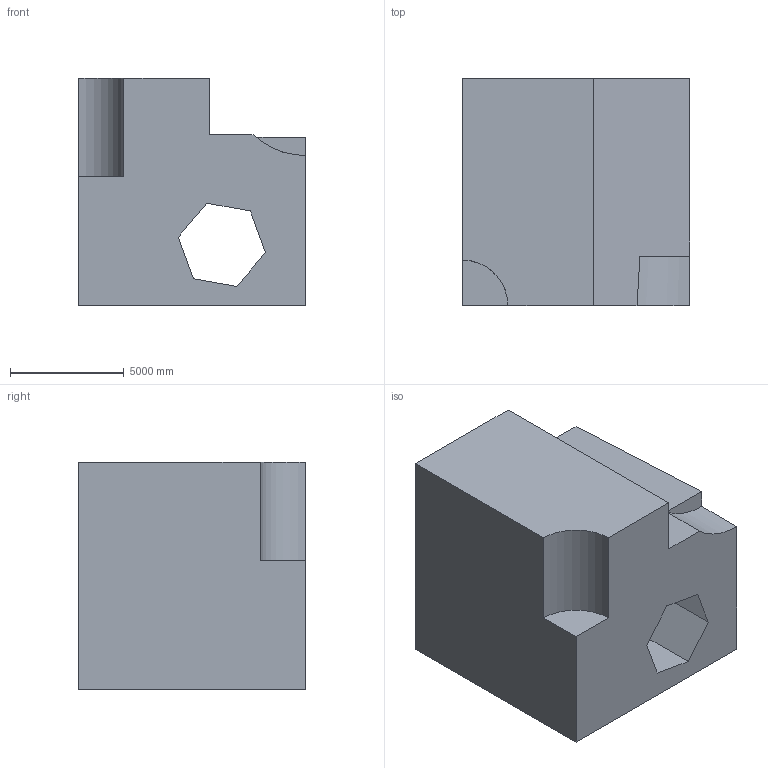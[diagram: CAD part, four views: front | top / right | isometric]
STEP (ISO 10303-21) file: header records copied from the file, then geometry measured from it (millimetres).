
FILE_DESCRIPTION (( 'STEP AP203' ), '1' );
FILE_NAME ('331.STEP', '2022-07-28T14:22:19', ( 'user' ), ( '' ), 'SwSTEP 2.0', 'SolidWorks 2021', '' );
FILE_SCHEMA (( 'CONFIG_CONTROL_DESIGN' ));
Length unit declared in the file: centimetre
Products named in the file (1): 331
Bounding box: 10000 x 10000 x 10000 mm (x, y, z)
Volume: 769251117467.9 mm3; surface area: 668636861.5 mm2
Topology: 1 solids, 1 shells, 18 faces, 48 edges, 32 vertices
Faces by surface type: plane 16, cylinder 2
Entity records: 637 total; most frequent: CARTESIAN_POINT 102, ORIENTED_EDGE 96, DIRECTION 89, EDGE_CURVE 48, VECTOR 43, LINE 43, VERTEX_POINT 32, AXIS2_PLACEMENT_3D 23
